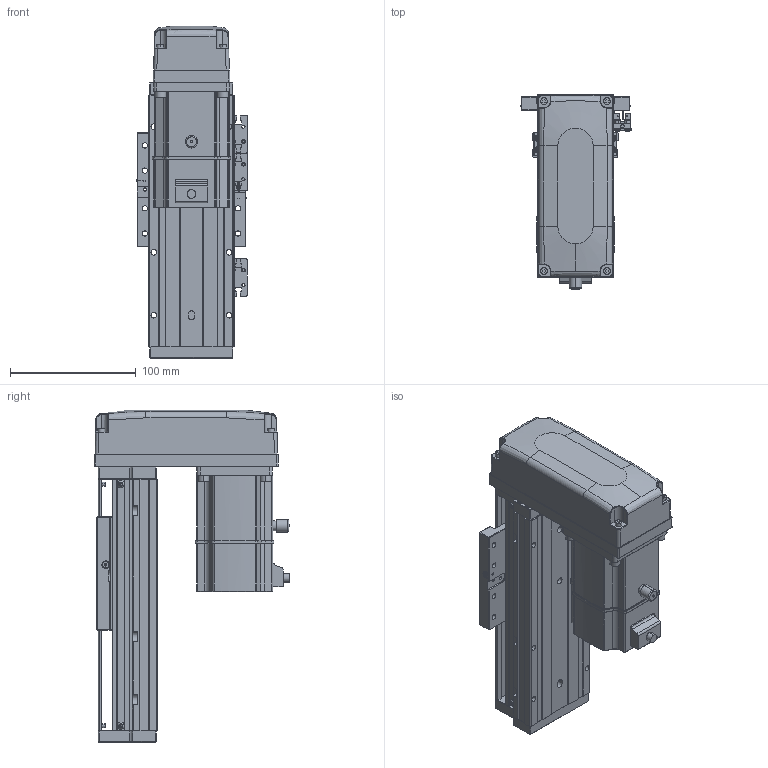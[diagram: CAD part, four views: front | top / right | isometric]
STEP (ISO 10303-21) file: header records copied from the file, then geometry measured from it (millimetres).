
FILE_DESCRIPTION (( 'STEP AP203' ), '1' );
FILE_NAME ('KTHAL60-50-BM-M20-C4L.step', '2022-12-16T02:10:36', ( '微软用户' ), ( '微软中国' ), 'SwSTEP 2.0', 'SolidWorks 2020', '' );
FILE_SCHEMA (( 'CONFIG_CONTROL_DESIGN' ));
Length unit declared in the file: millimetre
Products named in the file (17): CTHA60-016; EE_SX911P_R; _X2_4E0983F1_X0_200W_1; KTHA60-001_200; CTHA60-017; CTHA60-015-4_CTHA60-015-4; KTHLA60-002; CTHA60-021; GTH80-026; KTHA60-004; GBT 70.1-M4×16; KTHAL60-50-BM-M20-C4L; KTHA60-005; GBT77-2000M3-3; GB¨uT 70.2-M3¡Á5_M3¡Á6; GBT 70.1-M3℅6; GBT 70.3-M3℅6
Assembly tree (45 placements, depth 2):
  KTHAL60-50-BM-M20-C4L
    KTHA60-001_200
    KTHLA60-002
    KTHA60-004
    KTHA60-005
    GB¨uT 70.2-M3¡Á5_M3¡Á6  x5
    GBT 70.3-M3℅6  x4
    EE_SX911P_R  x3
    CTHA60-017  x3
    CTHA60-021  x2
    GBT 70.1-M4×16  x8
    GBT77-2000M3-3  x6
    GBT 70.1-M3℅6  x6
    CTHA60-016
    _X2_4E0983F1_X0_200W_1
    CTHA60-015-4_CTHA60-015-4
    GTH80-026
Bounding box: 87.82 x 155.2 x 264 mm (x, y, z)
Volume: 1186006 mm3; surface area: 228184.8 mm2
Topology: 48 solids, 48 shells, 2271 faces, 5380 edges, 3301 vertices
Faces by surface type: plane 1211, cylinder 599, cone 262, bspline 103, torus 82, sphere 14
Entity records: 43309 total; most frequent: CARTESIAN_POINT 9818, DIRECTION 6481, ORIENTED_EDGE 6384, EDGE_CURVE 3192, AXIS2_PLACEMENT_3D 2248, VERTEX_POINT 1985, VECTOR 1985, LINE 1985
